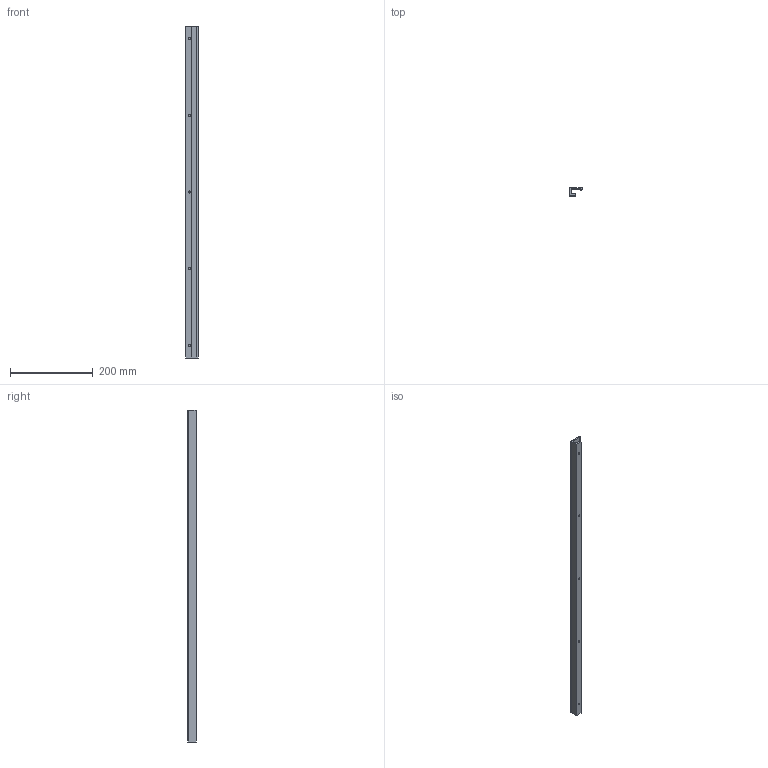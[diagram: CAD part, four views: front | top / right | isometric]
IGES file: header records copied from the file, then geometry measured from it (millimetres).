
Start section: SolidWorks IGES FILE using analytic representation for surfaces
Global section: file name: D:\SolidWorks2003\3D_データ\シブタニ\取手\ETP-121\ETP-121-10\ETP-121-10.IGS; native system: SolidWorks 2003 by SolidWorks Corporation; preprocessor: Version 5.3; author: Administrator; date: 130930.123853; units: millimetre
Bounding box: 30 x 20 x 800 mm (x, y, z)
Surface area: 96967.9 mm2 (no closed solid volume)
Topology: 0 solids, 0 shells, 27 faces, 550 edges, 550 vertices
Faces by surface type: revolution 17, bspline 10
